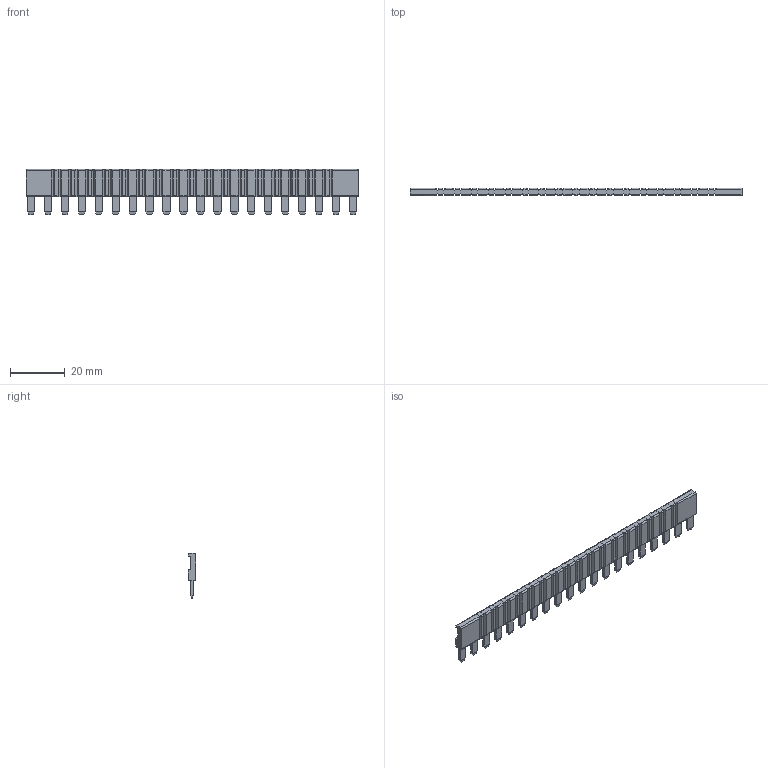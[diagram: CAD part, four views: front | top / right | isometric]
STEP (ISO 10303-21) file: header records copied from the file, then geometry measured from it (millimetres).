
FILE_DESCRIPTION(/* description */ (''),/* implementation_level */ '2;1');
FILE_NAME(/* name */ 'C:\Desktop\093.20.0.stp',/* time_stamp */ '2019-10-14T14:48:40+02:00',/* author */ ('marco'),/* organization */ (''),/* preprocessor_version */ 'ST-DEVELOPER v17',/* originating_system */ 'Autodesk Inventor 2019',/* authorisation */ '');
FILE_SCHEMA (('AUTOMOTIVE_DESIGN { 1 0 10303 214 3 1 1 }'));
Length unit declared in the file: millimetre
Products named in the file (1): 093.20.0
Bounding box: 121.5 x 2.8 x 16.5 mm (x, y, z)
Volume: 2754.1 mm3; surface area: 4733.4 mm2
Topology: 1 solids, 1 shells, 1287 faces, 3538 edges, 2332 vertices
Faces by surface type: plane 865, bspline 272, cylinder 150
Full cylindrical faces by diameter (mm): 4.351 x1
Entity records: 42042 total; most frequent: CARTESIAN_POINT 10686, ORIENTED_EDGE 7076, DIRECTION 5326, EDGE_CURVE 3538, LINE 2694, VECTOR 2694, VERTEX_POINT 2332, EDGE_LOOP 1366
